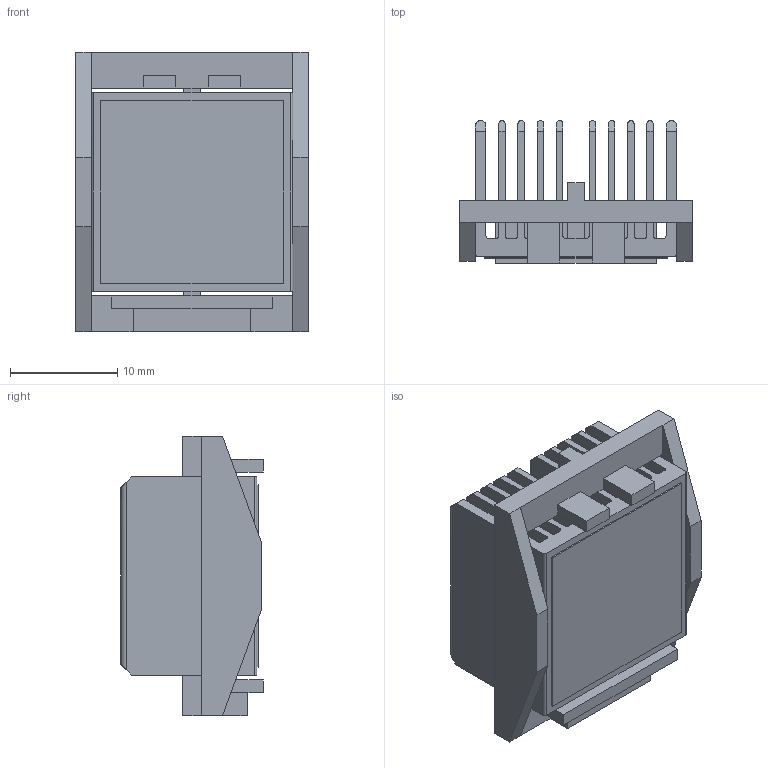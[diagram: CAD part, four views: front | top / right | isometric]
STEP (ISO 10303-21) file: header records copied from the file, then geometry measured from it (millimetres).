
FILE_DESCRIPTION (( 'STEP AP214' ), '1' );
FILE_NAME ('INL19001-13-1.7O.STEP', '2023-02-20T23:57:45', ( '' ), ( '' ), 'SwSTEP 2.0', 'SolidWorks 2020', '' );
FILE_SCHEMA (( 'AUTOMOTIVE_DESIGN' ));
Length unit declared in the file: millimetre
Products named in the file (1): INL19001-13-1.7O
Bounding box: 21.7 x 13.3 x 26.1 mm (x, y, z)
Volume: 2828.2 mm3; surface area: 6879.1 mm2
Topology: 3 solids, 3 shells, 136 faces, 392 edges, 260 vertices
Faces by surface type: plane 106, cylinder 30
Entity records: 5956 total; most frequent: CARTESIAN_POINT 849, ORIENTED_EDGE 784, DIRECTION 686, EDGE_CURVE 392, LINE 332, VECTOR 332, VERTEX_POINT 260, AXIS2_PLACEMENT_3D 177
